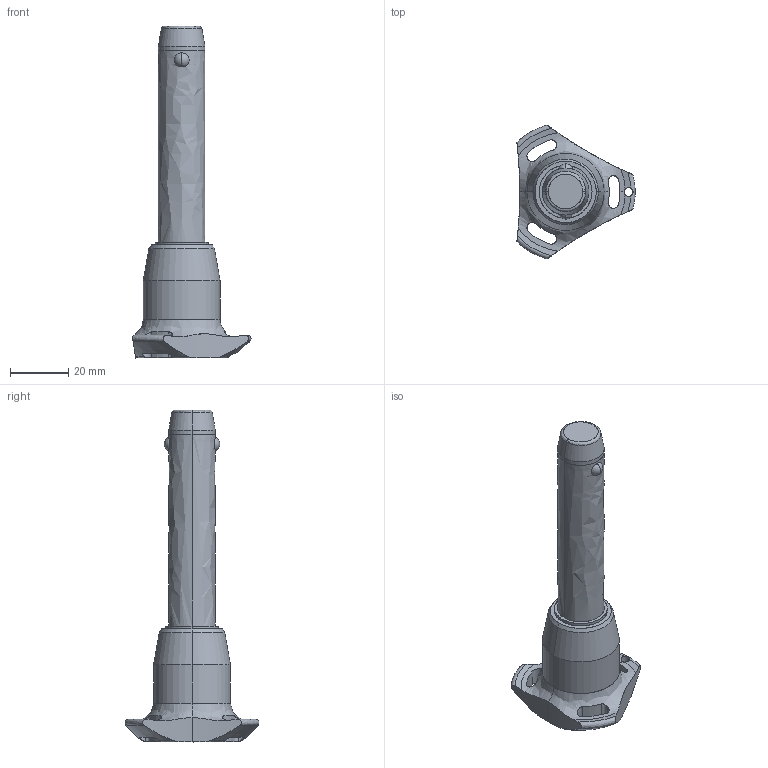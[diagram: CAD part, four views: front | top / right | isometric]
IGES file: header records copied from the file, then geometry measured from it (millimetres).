
Start section: SolidWorks IGES file using analytic representation for surfaces
Global section: file name: C:\Users\ianosborn\Desktop\QR1716_v2\QR1716_v2_20251114_IGES\QR1716.M16-060-T.igs; native system: SolidWorks 2019; preprocessor: SolidWorks 2019; author: IanOsborn; date: 251113.104000; units: millimetre
Bounding box: 40.5 x 45.88 x 113.7 mm (x, y, z)
Surface area: 9674.8 mm2 (no closed solid volume)
Topology: 0 solids, 0 shells, 68 faces, 1451 edges, 1447 vertices
Faces by surface type: revolution 52, bspline 16
